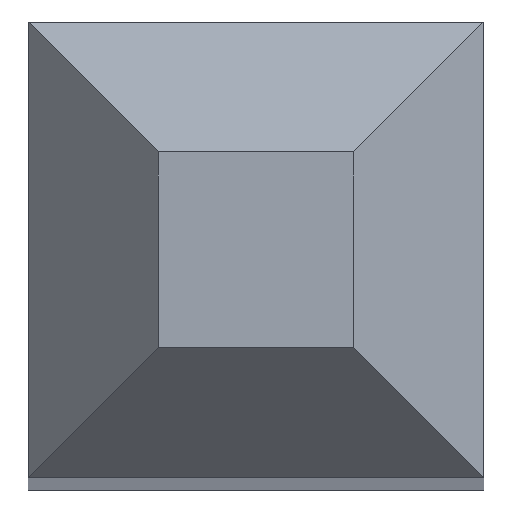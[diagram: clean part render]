
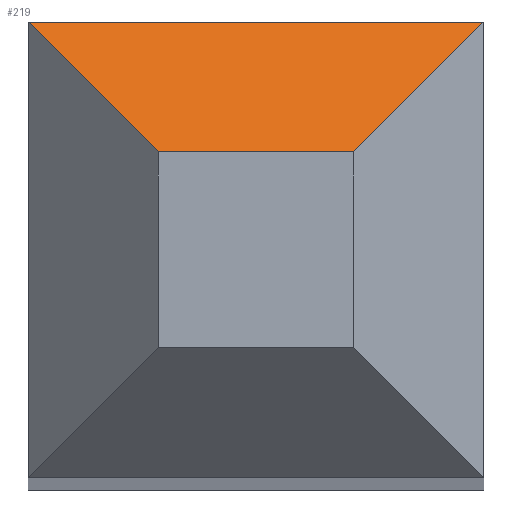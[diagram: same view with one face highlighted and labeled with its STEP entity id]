
A CAD part, top view. The second image highlights one B-rep face of the part: STEP entity #219.
In plain terms, the highlighted planar face has unit normal (0, 0.707, 0.707).
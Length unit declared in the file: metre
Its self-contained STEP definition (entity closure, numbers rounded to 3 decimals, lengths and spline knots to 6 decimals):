
#48=ORIENTED_EDGE('',*,*,#91,.T.);
#49=ORIENTED_EDGE('',*,*,#92,.T.);
#50=ORIENTED_EDGE('',*,*,#93,.T.);
#51=ORIENTED_EDGE('',*,*,#89,.F.);
#89=EDGE_CURVE('',#109,#110,#133,.T.);
#91=EDGE_CURVE('',#109,#111,#135,.F.);
#92=EDGE_CURVE('',#111,#106,#136,.T.);
#93=EDGE_CURVE('',#106,#110,#137,.T.);
#106=VERTEX_POINT('',#334);
#109=VERTEX_POINT('',#345);
#110=VERTEX_POINT('',#347);
#111=VERTEX_POINT('',#351);
#133=LINE('',#346,#161);
#135=LINE('',#350,#163);
#136=LINE('',#352,#164);
#137=LINE('',#353,#165);
#161=VECTOR('',#284,1.);
#163=VECTOR('',#288,1.);
#164=VECTOR('',#289,1.);
#165=VECTOR('',#290,1.);
#177=EDGE_LOOP('',(#48,#49,#50,#51));
#191=FACE_BOUND('',#177,.T.);
#205=PLANE('',#238);
#219=ADVANCED_FACE('',(#191),#205,.T.);
#238=AXIS2_PLACEMENT_3D('',#349,#286,#287);
#284=DIRECTION('',(-0.577,0.577,-0.577));
#286=DIRECTION('',(0.,0.707,0.707));
#287=DIRECTION('',(-1.,0.,0.));
#288=DIRECTION('',(-1.,0.,0.));
#289=DIRECTION('',(0.577,0.577,-0.577));
#290=DIRECTION('',(-1.,0.,0.));
#334=CARTESIAN_POINT('',(-0.001932,-0.00733,-0.0204));
#345=CARTESIAN_POINT('',(-0.002432,-0.00753,-0.0202));
#346=CARTESIAN_POINT('',(-0.002432,-0.00753,-0.0202));
#347=CARTESIAN_POINT('',(-0.002632,-0.00733,-0.0204));
#349=CARTESIAN_POINT('',(0.014433,-0.00743,-0.0203));
#350=CARTESIAN_POINT('',(0.014433,-0.00753,-0.0202));
#351=CARTESIAN_POINT('',(-0.002132,-0.00753,-0.0202));
#352=CARTESIAN_POINT('',(-0.002132,-0.00753,-0.0202));
#353=CARTESIAN_POINT('',(0.014433,-0.00733,-0.0204));
